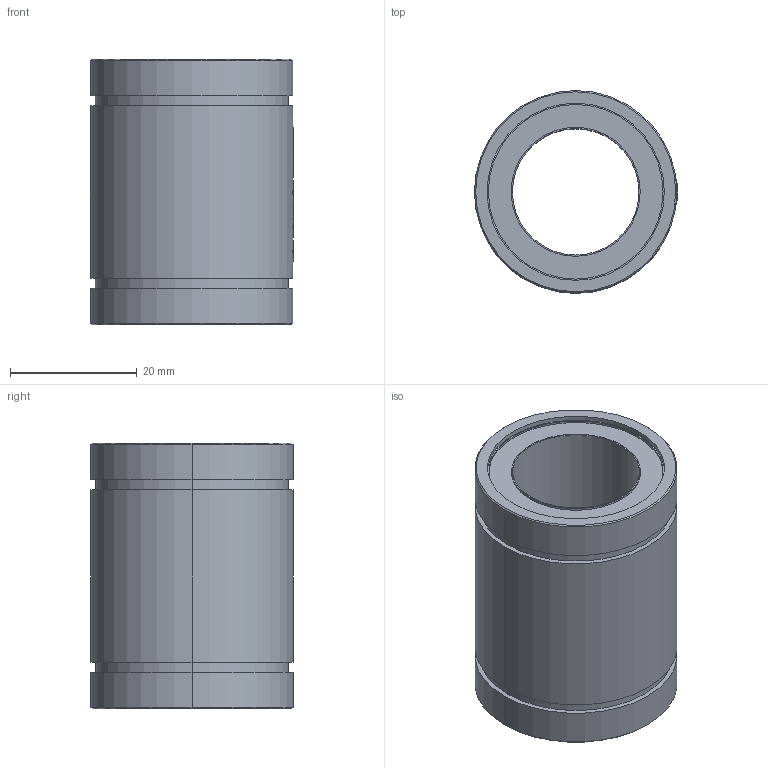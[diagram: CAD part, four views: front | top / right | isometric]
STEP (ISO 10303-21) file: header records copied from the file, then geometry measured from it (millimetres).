
FILE_DESCRIPTION (( 'STEP AP214' ), '1' );
FILE_NAME ('LM20UU.STEP', '2020-09-22T11:18:15', ( '' ), ( '' ), 'SwSTEP 2.0', 'SolidWorks 2018', '' );
FILE_SCHEMA (( 'AUTOMOTIVE_DESIGN' ));
Length unit declared in the file: millimetre
Products named in the file (3): LM20UU-2; LM20UU-1; LM20UU
Assembly tree (2 placements, depth 2):
  LM20UU
    LM20UU-1
    LM20UU-2
Bounding box: 32.1 x 32 x 42 mm (x, y, z)
Volume: 19730.3 mm3; surface area: 15361.7 mm2
Topology: 2 solids, 2 shells, 227 faces, 629 edges, 418 vertices
Faces by surface type: plane 115, cylinder 70, bspline 38, cone 4
Entity records: 10959 total; most frequent: CARTESIAN_POINT 3790, ORIENTED_EDGE 1258, DIRECTION 793, EDGE_CURVE 629, VERTEX_POINT 418, VECTOR 301, LINE 301, AXIS2_PLACEMENT_3D 246
